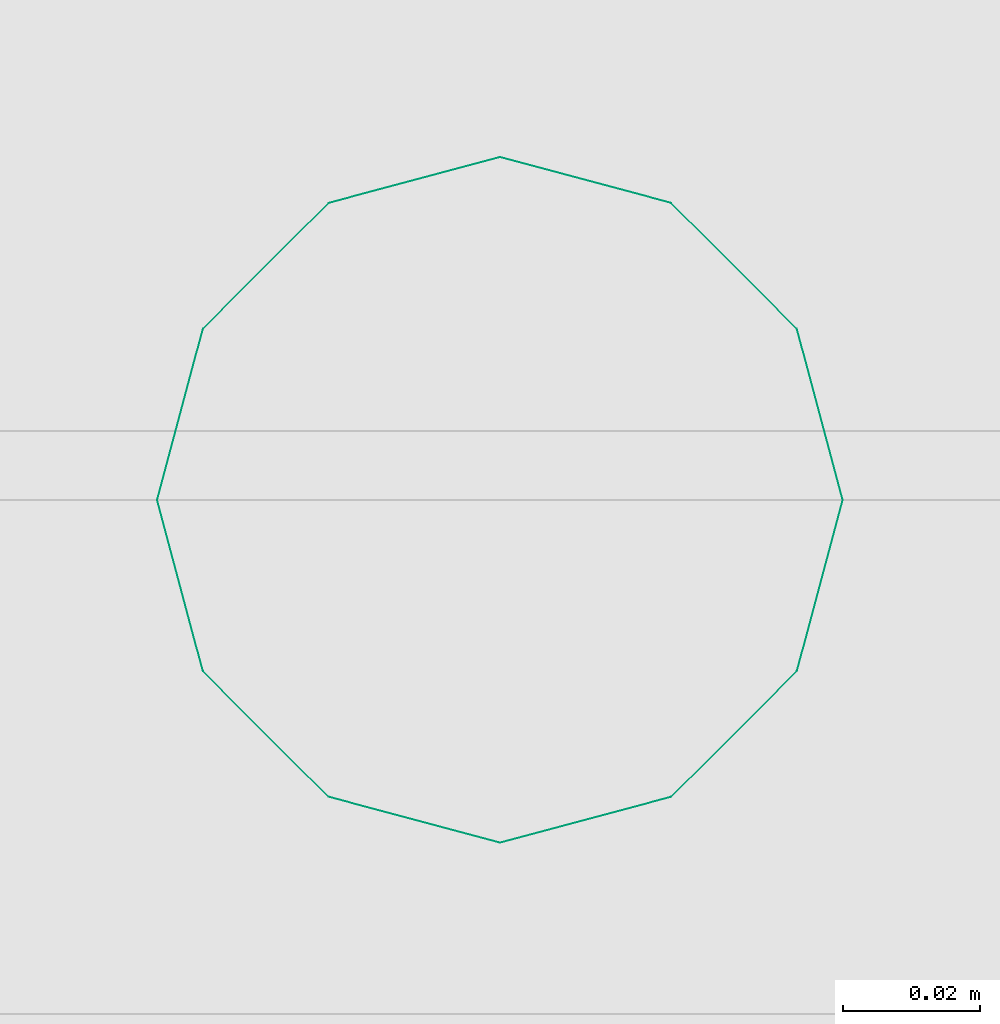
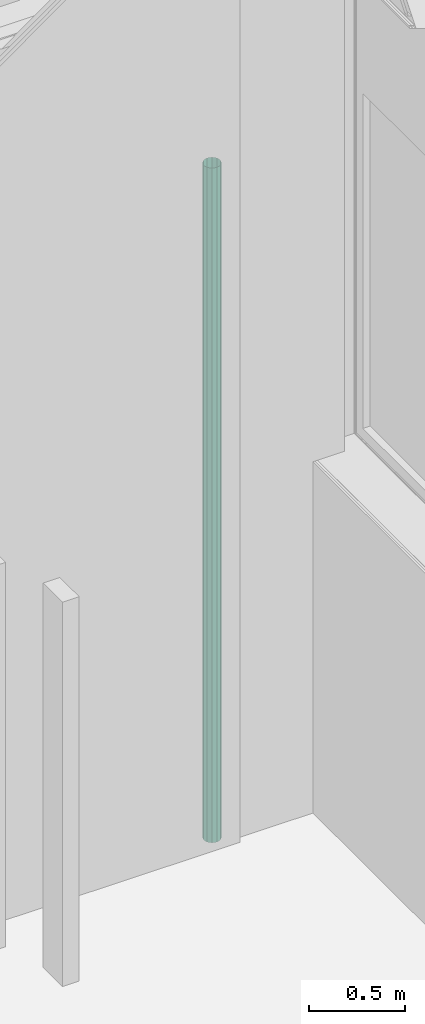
# One storey, part 95 of 109: 1 distribution flow element.
"""IFC2X3 building model written with IfcOpenShell, lengths in millimetres."""

import ifcopenshell
import ifcopenshell.guid

model = None  # the IFC model being written
_history = None  # IfcOwnerHistory: only IFC2X3 demands one
_inside = {}  # id of a spatial element -> (the spatial element, [elements in it])
_under = {}  # id of a project, library or spatial element -> (it, [spatial elements below it])
_declared = {}  # id of a project -> (the project, [libraries it declares])
_typed = {}  # id of a type object -> (the type object, [elements of that type])
_made_of = {}  # id of a material, layer set ... -> (it, [elements and type objects made of it])


def new_model(schema):
    """Start an empty IFC model of exactly this schema.

    Asked for "IFC4X3", IfcOpenShell would pick the latest addendum, in which some entities
    have other attributes; the version numbers below select the first issue.
    IFC2X3 requires an IfcOwnerHistory on every rooted entity: one is made here for all.
    """
    global model, _history
    if schema == "IFC4X3":
        model = ifcopenshell.file(schema_version=(4, 3, 0, 0))
    else:
        model = ifcopenshell.file(schema=schema)
    _inside.clear()
    _under.clear()
    _declared.clear()
    _typed.clear()
    _made_of.clear()
    _history = None
    if model.schema == "IFC2X3":
        org = make("IfcOrganization", Name="unknown")
        user = make(
            "IfcPersonAndOrganization",
            ThePerson=make("IfcPerson", FamilyName="unknown"),
            TheOrganization=org,
        )
        app = make(
            "IfcApplication",
            ApplicationDeveloper=org,
            Version="unknown",
            ApplicationFullName="unknown",
            ApplicationIdentifier="unknown",
        )
        _history = make(
            "IfcOwnerHistory",
            OwningUser=user,
            OwningApplication=app,
            ChangeAction="ADDED",
            CreationDate=0,
        )
    return model


def make(cls, **values):
    """One entity of the class cls with the attributes given. An attribute that is None is left unset."""
    return model.create_entity(
        cls, **{name: value for name, value in values.items() if value is not None}
    )


def entity(cls, *values):
    """Any entity or typed value of the class cls, its attributes in the order of the schema. None: left unset."""
    e = model.create_entity(cls)
    for i, value in enumerate(values):
        if value is not None:
            e[i] = value
    return e


def rooted(cls, **values):
    """An entity with a GlobalId (a new one), such as an element, a storey or a relation."""
    return make(cls, GlobalId=ifcopenshell.guid.new(), OwnerHistory=_history, **values)


def si_unit(unit_type, name, prefix=None):
    """IfcSIUnit, for example si_unit("LENGTHUNIT", "METRE", prefix="MILLI")."""
    return make("IfcSIUnit", UnitType=unit_type, Prefix=prefix, Name=name)


def converted_unit(unit_type, name, factor, base, dimensions=None, offset=None):
    """IfcConversionBasedUnit, such as the inch: factor (a typed value) times the base unit."""
    return make(
        "IfcConversionBasedUnit"
        if offset is None
        else "IfcConversionBasedUnitWithOffset",
        ConversionOffset=offset,
        Dimensions=None
        if dimensions is None
        else entity("IfcDimensionalExponents", *dimensions),
        UnitType=unit_type,
        Name=name,
        ConversionFactor=make(
            "IfcMeasureWithUnit", ValueComponent=factor, UnitComponent=base
        ),
    )


def derived_unit(unit_type, elements):
    """IfcDerivedUnit: a product of units, each with its exponent."""
    return make(
        "IfcDerivedUnit",
        Elements=[
            make("IfcDerivedUnitElement", Unit=unit, Exponent=power)
            for unit, power in elements
        ],
        UnitType=unit_type,
    )


def money_unit(currency):
    """IfcMonetaryUnit."""
    return make("IfcMonetaryUnit", Currency=currency)


def assignment(units):
    """IfcUnitAssignment: the units of a project."""
    return None if units is None else make("IfcUnitAssignment", Units=units)


def point(xyz):
    """IfcCartesianPoint."""
    return None if xyz is None else make("IfcCartesianPoint", Coordinates=xyz)


def direction(xyz):
    """IfcDirection."""
    return None if xyz is None else make("IfcDirection", DirectionRatios=xyz)


def frame(location, z_axis=None, x_axis=None):
    """IfcAxis2Placement3D, a coordinate frame: its origin and axes. An axis left out is left unset."""
    return make(
        "IfcAxis2Placement3D",
        Location=point(location),
        Axis=direction(z_axis),
        RefDirection=direction(x_axis),
    )


def origin_with_axes():
    """The frame at (0, 0, 0) with the z axis (0, 0, 1) and the x axis (1, 0, 0) written out."""
    return frame((0.0, 0.0, 0.0), z_axis=(0.0, 0.0, 1.0), x_axis=(1.0, 0.0, 0.0))


def place(relative_to, where):
    """IfcLocalPlacement: puts the frame where relative to a parent placement (None: the world)."""
    return make(
        "IfcLocalPlacement", PlacementRelTo=relative_to, RelativePlacement=where
    )


def context(
    kind, dimensions, precision=None, world=None, true_north=None, identifier=None
):
    """IfcGeometricRepresentationContext, for example the 3D "Model" context."""
    return make(
        "IfcGeometricRepresentationContext",
        ContextIdentifier=identifier,
        ContextType=kind,
        CoordinateSpaceDimension=dimensions,
        Precision=precision,
        WorldCoordinateSystem=world,
        TrueNorth=true_north,
    )


def subcontext(parent, identifier, kind, view, scale=None):
    """IfcGeometricRepresentationSubContext, for example "Body" below "Model"."""
    return make(
        "IfcGeometricRepresentationSubContext",
        ContextIdentifier=identifier,
        ContextType=kind,
        ParentContext=parent,
        TargetScale=scale,
        TargetView=view,
    )


def project(units=None, contexts=None):
    """IfcProject with its units and contexts."""
    return rooted(
        "IfcProject",
        Name="project",
        RepresentationContexts=contexts,
        UnitsInContext=assignment(units),
    )


def spatial(cls, under=None, at=None, **own):
    """A site, building, storey or space (cls), placed at a placement, below another one or the project."""
    s = rooted(cls, ObjectPlacement=at, **own)
    if under is not None:
        _under.setdefault(under.id(), (under, []))[1].append(s)
    return s


def faces_of(points, faces, orient=None, outer=None):
    """IfcFace entities. A face is a list of loops; a loop is a list of indices into points, from 0.

    orient and outer hold one flag for each loop. By default every Orientation is true, the
    first loop of a face is its IfcFaceOuterBound and the others are IfcFaceBound.
    """
    made = []
    for i, loops in enumerate(faces):
        bounds = []
        for j, loop in enumerate(loops):
            is_outer = j == 0 if outer is None else outer[i][j]
            bounds.append(
                make(
                    "IfcFaceOuterBound" if is_outer else "IfcFaceBound",
                    Bound=make("IfcPolyLoop", Polygon=[points[k] for k in loop]),
                    Orientation=True if orient is None else orient[i][j],
                )
            )
        made.append(make("IfcFace", Bounds=bounds))
    return made


def open_shell(faces, orient=None, outer=None):
    """The faces of one IfcOpenShell. surface_model builds it on its shared points."""
    return ("IfcOpenShell", faces, orient, outer)


def surface_model(cls, points, shells):
    """IfcFaceBasedSurfaceModel or IfcShellBasedSurfaceModel (cls): surfaces that need not close."""
    shared = [point(p) for p in points]
    made = [make(c, CfsFaces=faces_of(shared, fs, o, b)) for c, fs, o, b in shells]
    if cls == "IfcFaceBasedSurfaceModel":
        return make(cls, FbsmFaces=made)
    return make(cls, SbsmBoundary=made)


def shape(context_of_items, identifier, shape_type, items):
    """IfcShapeRepresentation: the items that make up one representation, for example the "Body"."""
    return make(
        "IfcShapeRepresentation",
        ContextOfItems=context_of_items,
        RepresentationIdentifier=identifier,
        RepresentationType=shape_type,
        Items=items,
    )


def source(mapping_origin, context_of_items, identifier, shape_type, items):
    """IfcRepresentationMap: a shape defined once, which mapped items show again and again."""
    return make(
        "IfcRepresentationMap",
        MappingOrigin=mapping_origin,
        MappedRepresentation=shape(context_of_items, identifier, shape_type, items),
    )


def transform(
    local_origin,
    x_axis=None,
    y_axis=None,
    z_axis=None,
    scale=None,
    scale2=None,
    scale3=None,
    uniform=True,
):
    """IfcCartesianTransformationOperator3D, or its non-uniform kind. x_axis, y_axis, z_axis: its Axis1, 2, 3."""
    if uniform:
        return make(
            "IfcCartesianTransformationOperator3D",
            Axis1=direction(x_axis),
            Axis2=direction(y_axis),
            LocalOrigin=point(local_origin),
            Scale=scale,
            Axis3=direction(z_axis),
        )
    return make(
        "IfcCartesianTransformationOperator3DnonUniform",
        Axis1=direction(x_axis),
        Axis2=direction(y_axis),
        LocalOrigin=point(local_origin),
        Scale=scale,
        Axis3=direction(z_axis),
        Scale2=scale2,
        Scale3=scale3,
    )


def mapped(mapping_source, mapping_target):
    """IfcMappedItem: shows the shape of a source again, moved by a transform."""
    return make(
        "IfcMappedItem", MappingSource=mapping_source, MappingTarget=mapping_target
    )


def made_of(thing, what):
    """Note that an element or type object is made of a material, layer set ...; save() writes the relation."""
    if what is not None:
        _made_of.setdefault(what.id(), (what, []))[1].append(thing)
    return thing


def type_object(cls, material=None, **own):
    """A type object (cls), such as IfcWallType, which elements share."""
    return made_of(rooted(cls, **own), material)


def type_shapes(of_type, sources):
    """Give a type object the sources (RepresentationMaps) that its elements show as mapped items."""
    of_type.RepresentationMaps = sources


def element(
    cls,
    number,
    at=None,
    inside=None,
    cuts=None,
    type_object=None,
    material=None,
    context=None,
    identifier="Body",
    shape_type=None,
    held_by="IfcProductDefinitionShape",
    body=None,
    shapes=None,
    **own,
):
    """One element of the class cls, such as IfcWall. Its Tag is "e" and its number.

    at: its placement. inside: the storey or other place that contains it. cuts: it is an
    opening in that element (IfcRelVoidsElement). A single representation is given by context,
    identifier, shape_type and body (its items); several are given by shapes. held_by: the class
    of the entity that holds the representations. save() writes the other relations.
    """
    e = rooted(cls, Tag="e%d" % number, ObjectPlacement=at, **own)
    if body is not None:
        shapes = [shape(context, identifier, shape_type, body)]
    if shapes is not None:
        e.Representation = make(held_by, Representations=shapes)
    if inside is not None:
        _inside.setdefault(inside.id(), (inside, []))[1].append(e)
    if cuts is not None:
        rooted(
            "IfcRelVoidsElement", RelatingBuildingElement=cuts, RelatedOpeningElement=e
        )
    if type_object is not None:
        _typed.setdefault(type_object.id(), (type_object, []))[1].append(e)
    return made_of(e, material)


def aggregate(whole, parts):
    """IfcRelAggregates: a whole, such as a stair, and the parts it consists of."""
    return rooted("IfcRelAggregates", RelatingObject=whole, RelatedObjects=parts)


def save(model, path):
    """Write the relations noted so far, then the file.

    IfcRelAggregates (storeys below a building ...), IfcRelContainedInSpatialStructure (elements
    in a storey), IfcRelDefinesByType, IfcRelAssociatesMaterial and IfcRelDeclares: one each for
    every whole, place, type object, material and project.
    """
    for whole, parts in _under.values():
        aggregate(whole, parts)
    for where, things in _inside.values():
        rooted(
            "IfcRelContainedInSpatialStructure",
            RelatedElements=things,
            RelatingStructure=where,
        )
    for kind, things in _typed.values():
        rooted("IfcRelDefinesByType", RelatedObjects=things, RelatingType=kind)
    for what, things in _made_of.values():
        rooted("IfcRelAssociatesMaterial", RelatedObjects=things, RelatingMaterial=what)
    for by, libraries in _declared.values():
        rooted("IfcRelDeclares", RelatingContext=by, RelatedDefinitions=libraries)
    model.write(path)


model = new_model("IFC2X3")

# Units and contexts
model_context = context("Model", 3, precision=0.01, world=origin_with_axes(), true_north=direction((0.0, 1.0)))
body_context = subcontext(model_context, "Body", "Model", "MODEL_VIEW")
ifc_project = project(units=[si_unit("LENGTHUNIT", "METRE", prefix="MILLI"), si_unit("AREAUNIT", "SQUARE_METRE"), si_unit("VOLUMEUNIT", "CUBIC_METRE"), converted_unit("PLANEANGLEUNIT", "DEGREE", entity("IfcPlaneAngleMeasure", 0.0174532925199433), si_unit("PLANEANGLEUNIT", "RADIAN"), dimensions=[0, 0, 0, 0, 0, 0, 0]), money_unit("EUR"), converted_unit("TIMEUNIT", "Year", entity("IfcTimeMeasure", 31557600.0), si_unit("TIMEUNIT", "SECOND"), dimensions=[0, 0, 1, 0, 0, 0, 0]), si_unit("MASSUNIT", "GRAM", prefix="KILO"), si_unit("THERMODYNAMICTEMPERATUREUNIT", "DEGREE_CELSIUS"), si_unit("LUMINOUSINTENSITYUNIT", "LUMEN"), si_unit("ENERGYUNIT", "JOULE", prefix="MEGA"), derived_unit("THERMALCONDUCTANCEUNIT", [(si_unit("POWERUNIT", "WATT"), 1), (si_unit("LENGTHUNIT", "METRE"), -1), (si_unit("THERMODYNAMICTEMPERATUREUNIT", "KELVIN"), -1)]), derived_unit("SPECIFICHEATCAPACITYUNIT", [(si_unit("ENERGYUNIT", "JOULE"), 1), (si_unit("MASSUNIT", "GRAM", prefix="KILO"), -1), (si_unit("THERMODYNAMICTEMPERATUREUNIT", "KELVIN"), -1)]), derived_unit("MASSDENSITYUNIT", [(si_unit("MASSUNIT", "GRAM", prefix="KILO"), 1), (si_unit("VOLUMEUNIT", "CUBIC_METRE"), -1)])], contexts=[model_context])

# Site, building, storey
site_placement = place(None, origin_with_axes())
site = spatial("IfcSite", under=ifc_project, at=site_placement, Name="<site naam>", CompositionType="ELEMENT")
building_placement = place(site_placement, origin_with_axes())
building = spatial("IfcBuilding", under=site, at=building_placement, Name="<Naam gebouw>", CompositionType="ELEMENT")
storey_placement = place(building_placement, origin_with_axes())
storey = spatial("IfcBuildingStorey", under=building, at=storey_placement, Name="00 Begane grond", CompositionType="ELEMENT", Elevation=0.0)

# Distribution flow element
valve_type = type_object("IfcValveType", Name="Regenpijp 27", PredefinedType="AIRRELEASE")
shared_shape = source(origin_with_axes(), body_context, "Body", "SurfaceModel", [
    surface_model("IfcShellBasedSurfaceModel", [(-50.0, -30.0, 4272.999999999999), (-50.0, -30.0, 0.0), (-43.30127018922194, -54.99999999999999, 0.0), (-43.30127018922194, -54.99999999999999, 4272.999999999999), (-43.30127018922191, -4.999999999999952, 4272.999999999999), (-43.30127018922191, -4.999999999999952, 0.0), (-25.00000000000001, -73.30127018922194, 0.0), (-25.00000000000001, -73.30127018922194, 4272.999999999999), (-24.99999999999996, 13.30127018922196, 4272.999999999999), (-24.99999999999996, 13.30127018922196, 0.0), (0.0, -80.0, 0.0), (0.0, -80.0, 4272.999999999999), (0.0, 20.0, 4272.999999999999), (0.0, 20.0, 0.0), (24.99999999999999, -73.30127018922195, 0.0), (24.99999999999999, -73.30127018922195, 4272.999999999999), (25.00000000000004, 13.30127018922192, 4272.999999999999), (25.00000000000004, 13.30127018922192, 0.0), (43.30127018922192, -55.00000000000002, 0.0), (43.30127018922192, -55.00000000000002, 4272.999999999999), (43.30127018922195, -5.000000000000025, 4272.999999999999), (43.30127018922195, -5.000000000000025, 0.0), (50.0, -30.00000000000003, 0.0), (50.0, -30.00000000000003, 4272.999999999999)], [open_shell([[[0, 1, 2, 3]], [[4, 5, 1, 0]], [[3, 2, 6, 7]], [[8, 9, 5, 4]], [[7, 6, 10, 11]], [[12, 13, 9, 8]], [[11, 10, 14, 15]], [[16, 17, 13, 12]], [[15, 14, 18, 19]], [[20, 21, 17, 16]], [[19, 18, 22, 23]], [[23, 22, 21, 20]]])]),
])
type_shapes(valve_type, [shared_shape])
distribution_flow_element_placement = place(storey_placement, frame((69225.000113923, 19929.9683199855, 0.0), z_axis=(0.0, 0.0, 1.0), x_axis=(1.0, 0.0, 0.0)))
element("IfcDistributionFlowElement", 1, at=distribution_flow_element_placement, inside=storey, type_object=valve_type, Name="52_Wasmachine_Lege", context=body_context, shape_type="MappedRepresentation", body=[
    mapped(shared_shape, transform((0.0, 0.0, 0.0))),
])

save(model, "model.ifc")
